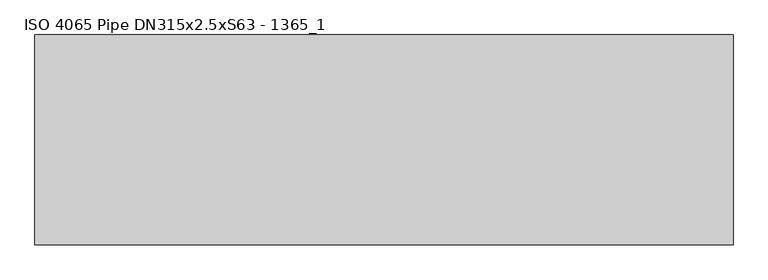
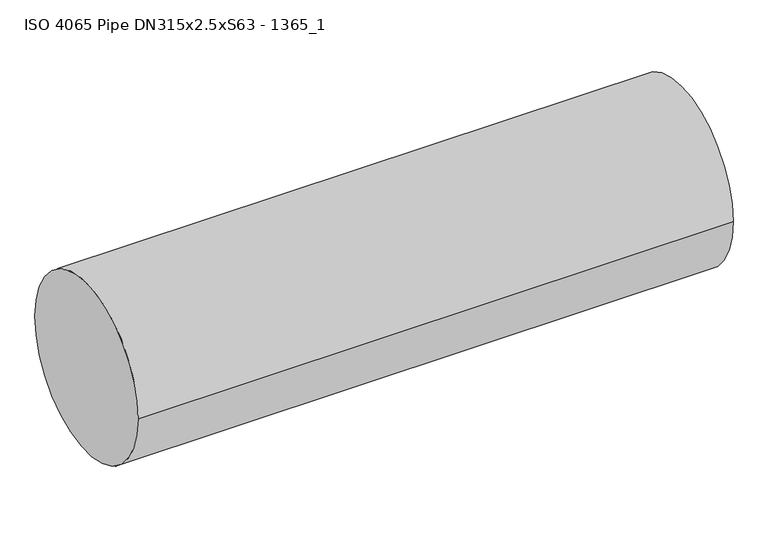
"""IFC4 building model written with IfcOpenShell, lengths in millimetres: proxy geometry, ISO 4065 Pipe DN315x2.5xS63 - 1365_1."""

import ifcopenshell
import ifcopenshell.guid

model = None  # the IFC model being written
_history = None  # IfcOwnerHistory: only IFC2X3 demands one
_inside = {}  # id of a spatial element -> (the spatial element, [elements in it])
_under = {}  # id of a project, library or spatial element -> (it, [spatial elements below it])
_declared = {}  # id of a project -> (the project, [libraries it declares])
_typed = {}  # id of a type object -> (the type object, [elements of that type])
_made_of = {}  # id of a material, layer set ... -> (it, [elements and type objects made of it])


def new_model(schema):
    """Start an empty IFC model of exactly this schema.

    Asked for "IFC4X3", IfcOpenShell would pick the latest addendum, in which some entities
    have other attributes; the version numbers below select the first issue.
    IFC2X3 requires an IfcOwnerHistory on every rooted entity: one is made here for all.
    """
    global model, _history
    if schema == "IFC4X3":
        model = ifcopenshell.file(schema_version=(4, 3, 0, 0))
    else:
        model = ifcopenshell.file(schema=schema)
    _inside.clear()
    _under.clear()
    _declared.clear()
    _typed.clear()
    _made_of.clear()
    _history = None
    if model.schema == "IFC2X3":
        org = make("IfcOrganization", Name="unknown")
        user = make(
            "IfcPersonAndOrganization",
            ThePerson=make("IfcPerson", FamilyName="unknown"),
            TheOrganization=org,
        )
        app = make(
            "IfcApplication",
            ApplicationDeveloper=org,
            Version="unknown",
            ApplicationFullName="unknown",
            ApplicationIdentifier="unknown",
        )
        _history = make(
            "IfcOwnerHistory",
            OwningUser=user,
            OwningApplication=app,
            ChangeAction="ADDED",
            CreationDate=0,
        )
    return model


def make(cls, **values):
    """One entity of the class cls with the attributes given. An attribute that is None is left unset."""
    return model.create_entity(
        cls, **{name: value for name, value in values.items() if value is not None}
    )


def rooted(cls, **values):
    """An entity with a GlobalId (a new one), such as an element, a storey or a relation."""
    return make(cls, GlobalId=ifcopenshell.guid.new(), OwnerHistory=_history, **values)


def si_unit(unit_type, name, prefix=None):
    """IfcSIUnit, for example si_unit("LENGTHUNIT", "METRE", prefix="MILLI")."""
    return make("IfcSIUnit", UnitType=unit_type, Prefix=prefix, Name=name)


def assignment(units):
    """IfcUnitAssignment: the units of a project."""
    return None if units is None else make("IfcUnitAssignment", Units=units)


def point(xyz):
    """IfcCartesianPoint."""
    return None if xyz is None else make("IfcCartesianPoint", Coordinates=xyz)


def direction(xyz):
    """IfcDirection."""
    return None if xyz is None else make("IfcDirection", DirectionRatios=xyz)


def frame(location, z_axis=None, x_axis=None):
    """IfcAxis2Placement3D, a coordinate frame: its origin and axes. An axis left out is left unset."""
    return make(
        "IfcAxis2Placement3D",
        Location=point(location),
        Axis=direction(z_axis),
        RefDirection=direction(x_axis),
    )


def origin():
    """The frame at (0, 0, 0) with its axes left unset."""
    return frame((0.0, 0.0, 0.0))


def place(relative_to, where):
    """IfcLocalPlacement: puts the frame where relative to a parent placement (None: the world)."""
    return make(
        "IfcLocalPlacement", PlacementRelTo=relative_to, RelativePlacement=where
    )


def context(
    kind, dimensions, precision=None, world=None, true_north=None, identifier=None
):
    """IfcGeometricRepresentationContext, for example the 3D "Model" context."""
    return make(
        "IfcGeometricRepresentationContext",
        ContextIdentifier=identifier,
        ContextType=kind,
        CoordinateSpaceDimension=dimensions,
        Precision=precision,
        WorldCoordinateSystem=world,
        TrueNorth=true_north,
    )


def project(units=None, contexts=None):
    """IfcProject with its units and contexts."""
    return rooted(
        "IfcProject",
        Name="project",
        RepresentationContexts=contexts,
        UnitsInContext=assignment(units),
    )


def spatial(cls, under=None, at=None, **own):
    """A site, building, storey or space (cls), placed at a placement, below another one or the project."""
    s = rooted(cls, ObjectPlacement=at, **own)
    if under is not None:
        _under.setdefault(under.id(), (under, []))[1].append(s)
    return s


def circle_curve(where, radius):
    """IfcCircle in the frame where."""
    return make("IfcCircle", Position=where, Radius=radius)


def shape(context_of_items, identifier, shape_type, items):
    """IfcShapeRepresentation: the items that make up one representation, for example the "Body"."""
    return make(
        "IfcShapeRepresentation",
        ContextOfItems=context_of_items,
        RepresentationIdentifier=identifier,
        RepresentationType=shape_type,
        Items=items,
    )


def source(mapping_origin, context_of_items, identifier, shape_type, items):
    """IfcRepresentationMap: a shape defined once, which mapped items show again and again."""
    return make(
        "IfcRepresentationMap",
        MappingOrigin=mapping_origin,
        MappedRepresentation=shape(context_of_items, identifier, shape_type, items),
    )


def transform(
    local_origin,
    x_axis=None,
    y_axis=None,
    z_axis=None,
    scale=None,
    scale2=None,
    scale3=None,
    uniform=True,
):
    """IfcCartesianTransformationOperator3D, or its non-uniform kind. x_axis, y_axis, z_axis: its Axis1, 2, 3."""
    if uniform:
        return make(
            "IfcCartesianTransformationOperator3D",
            Axis1=direction(x_axis),
            Axis2=direction(y_axis),
            LocalOrigin=point(local_origin),
            Scale=scale,
            Axis3=direction(z_axis),
        )
    return make(
        "IfcCartesianTransformationOperator3DnonUniform",
        Axis1=direction(x_axis),
        Axis2=direction(y_axis),
        LocalOrigin=point(local_origin),
        Scale=scale,
        Axis3=direction(z_axis),
        Scale2=scale2,
        Scale3=scale3,
    )


def mapped(mapping_source, mapping_target):
    """IfcMappedItem: shows the shape of a source again, moved by a transform."""
    return make(
        "IfcMappedItem", MappingSource=mapping_source, MappingTarget=mapping_target
    )


def made_of(thing, what):
    """Note that an element or type object is made of a material, layer set ...; save() writes the relation."""
    if what is not None:
        _made_of.setdefault(what.id(), (what, []))[1].append(thing)
    return thing


def element(
    cls,
    number,
    at=None,
    inside=None,
    cuts=None,
    type_object=None,
    material=None,
    context=None,
    identifier="Body",
    shape_type=None,
    held_by="IfcProductDefinitionShape",
    body=None,
    shapes=None,
    **own,
):
    """One element of the class cls, such as IfcWall. Its Tag is "e" and its number.

    at: its placement. inside: the storey or other place that contains it. cuts: it is an
    opening in that element (IfcRelVoidsElement). A single representation is given by context,
    identifier, shape_type and body (its items); several are given by shapes. held_by: the class
    of the entity that holds the representations. save() writes the other relations.
    """
    e = rooted(cls, Tag="e%d" % number, ObjectPlacement=at, **own)
    if body is not None:
        shapes = [shape(context, identifier, shape_type, body)]
    if shapes is not None:
        e.Representation = make(held_by, Representations=shapes)
    if inside is not None:
        _inside.setdefault(inside.id(), (inside, []))[1].append(e)
    if cuts is not None:
        rooted(
            "IfcRelVoidsElement", RelatingBuildingElement=cuts, RelatedOpeningElement=e
        )
    if type_object is not None:
        _typed.setdefault(type_object.id(), (type_object, []))[1].append(e)
    return made_of(e, material)


def aggregate(whole, parts):
    """IfcRelAggregates: a whole, such as a stair, and the parts it consists of."""
    return rooted("IfcRelAggregates", RelatingObject=whole, RelatedObjects=parts)


def save(model, path):
    """Write the relations noted so far, then the file.

    IfcRelAggregates (storeys below a building ...), IfcRelContainedInSpatialStructure (elements
    in a storey), IfcRelDefinesByType, IfcRelAssociatesMaterial and IfcRelDeclares: one each for
    every whole, place, type object, material and project.
    """
    for whole, parts in _under.values():
        aggregate(whole, parts)
    for where, things in _inside.values():
        rooted(
            "IfcRelContainedInSpatialStructure",
            RelatedElements=things,
            RelatingStructure=where,
        )
    for kind, things in _typed.values():
        rooted("IfcRelDefinesByType", RelatedObjects=things, RelatingType=kind)
    for what, things in _made_of.values():
        rooted("IfcRelAssociatesMaterial", RelatedObjects=things, RelatingMaterial=what)
    for by, libraries in _declared.values():
        rooted("IfcRelDeclares", RelatingContext=by, RelatedDefinitions=libraries)
    model.write(path)


def plane_surface(at):
    """IfcPlane: the flat surface through the origin of the frame at, square to its z axis."""
    return make("IfcPlane", Position=at)


def cylinder_surface(at, radius):
    """IfcCylindricalSurface: all points at the distance radius from the z axis of the frame at."""
    return make("IfcCylindricalSurface", Position=at, Radius=radius)


def advanced_brep(points, edges, surfaces, faces):
    """IfcAdvancedBrep: a solid bounded by faces that lie on surfaces and meet in shared edges.

    An edge is (start, end): straight between two places in points (the first is 0);
    or (start, end, curve); or (start, end, curve, False) where it runs against its curve.
    A face is (place in surfaces, loops), or (place, loops, False) where it looks against
    its surface's normal. A loop lists edges by number (the first is 1), with a minus sign
    where the edge is run from its end to its start. The first loop is the outer one.
    """
    corners = [point(p) for p in points]
    vertices = [make("IfcVertexPoint", VertexGeometry=c) for c in corners]
    made = []
    for start, end, *more in edges:
        made.append(
            make(
                "IfcEdgeCurve",
                EdgeStart=vertices[start],
                EdgeEnd=vertices[end],
                EdgeGeometry=more[0] if more else make("IfcPolyline", Points=[corners[start], corners[end]]),
                SameSense=more[1] if len(more) > 1 else True,
            )
        )
    hull = []
    for where, loops, *sense in faces:
        bounds = []
        for j, loop in enumerate(loops):
            ring = [make("IfcOrientedEdge", EdgeElement=made[abs(k) - 1], Orientation=k > 0) for k in loop]
            bounds.append(
                make(
                    "IfcFaceOuterBound" if j == 0 else "IfcFaceBound",
                    Bound=make("IfcEdgeLoop", EdgeList=ring),
                    Orientation=True,
                )
            )
        hull.append(make("IfcAdvancedFace", Bounds=bounds, FaceSurface=surfaces[where], SameSense=sense[0] if sense else True))
    return make("IfcAdvancedBrep", Outer=make("IfcClosedShell", CfsFaces=hull))


def iso_4065_pipe_dn315x2_5xs63_1365_1_c6710c68(model_context):
    return source(origin(), model_context, "Body", "AdvancedBrep", [
        advanced_brep(
        [(0.0, -157.5, 0.0), (1048.5, -157.5, 0.0), (1048.5, 157.5, 0.0), (0.0, 157.5, 0.0), (1048.5, 79.1795725, -136.1500837)],
        [
            (0, 1),
            (1, 2, circle_curve(frame((1048.5, 0.0, 0.0), z_axis=(-1.0, 0.0, 0.0), x_axis=(0.0, -1.0, 0.0)), 157.5)),
            (2, 3),
            (3, 0, circle_curve(frame((0.0, 0.0, 0.0), z_axis=(1.0, 0.0, 0.0), x_axis=(0.0, -1.0, 0.0)), 157.5)),
            (3, 0, circle_curve(frame((0.0, 0.0, 0.0), z_axis=(-1.0, 0.0, 0.0), x_axis=(0.0, -1.0, 0.0)), 157.5)),
            (1, 4, circle_curve(frame((1048.5, 0.0, 0.0), z_axis=(1.0, 0.0, 0.0), x_axis=(0.0, -1.0, 0.0)), 157.5)),
            (4, 2, circle_curve(frame((1048.5, 0.0, 0.0), z_axis=(1.0, 0.0, 0.0), x_axis=(0.0, -1.0, 0.0)), 157.5)),
        ],
        [
            cylinder_surface(frame((0.0, 0.0, 0.0), z_axis=(1.0, 0.0, 0.0), x_axis=(0.0, -1.0, 0.0)), 157.5),
            plane_surface(frame((0.0, 0.0, 0.0), z_axis=(-1.0, 0.0, 0.0), x_axis=(0.0, 0.0, 1.0))),
            plane_surface(frame((1048.5, 0.0, 0.0), z_axis=(1.0, 0.0, 0.0), x_axis=(0.0, 0.5027274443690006, -0.8644449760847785))),
        ],
        [
            (0, [[1, 2, 3, 4]]),
            (1, [[5, -4]]),
            (2, [[6, 7, -2]]),
            (0, [[-1, -5, -3, -7, -6]]),
        ],
    ),
    ])


if __name__ == "__main__":
    model = new_model("IFC4")
    model_context = context("Model", 3, world=origin())
    ifc_project = project(units=[si_unit("LENGTHUNIT", "METRE", prefix="MILLI")], contexts=[model_context])
    site = spatial("IfcSite", under=ifc_project)
    building = spatial("IfcBuilding", under=site)
    placement = place(None, origin())
    iso_4065_pipe_dn315x2_5xs63_1365_1_shape = iso_4065_pipe_dn315x2_5xs63_1365_1_c6710c68(model_context)
    element("IfcBuildingElementProxy", 1, Name="ISO 4065 Pipe DN315x2.5xS63 - 1365_1", ObjectType="ISO 4065 Pipe DN315x2.5xS63 - 1365_1", at=placement, inside=building, context=model_context, shape_type="MappedRepresentation", body=[
        mapped(iso_4065_pipe_dn315x2_5xs63_1365_1_shape, transform((0.0, 0.0, 0.0), x_axis=(1.0, 0.0, 0.0), y_axis=(0.0, 1.0, 0.0), z_axis=(0.0, 0.0, 1.0))),
    ])
    save(model, "model.ifc")
